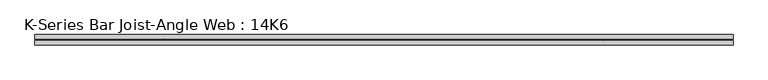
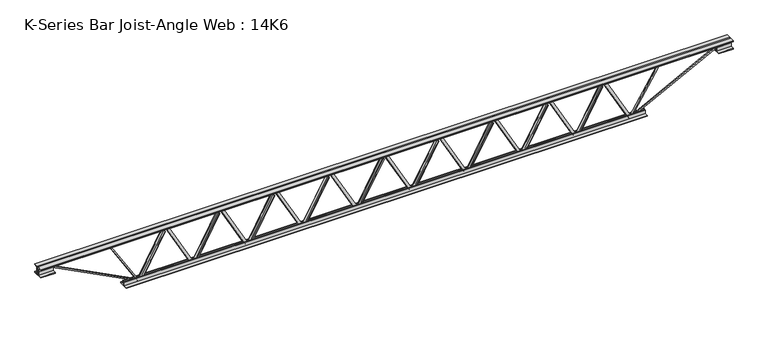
"""IFC4 building model written with IfcOpenShell, lengths in millimetres: beam geometry, K-Series Bar Joist-Angle Web : 14K6."""

from ifc_helpers import new_model, si_unit, frame, origin, place, context, project, spatial, polyline, outline, extrude, faceted_brep, source, transform, mapped, element, save


def k_series_bar_joist_angle_web_14k6_51fbc8db(model_context):
    return source(origin(), model_context, "Body", "SolidModel", [
        extrude(outline(polyline([(-4.7625, 4.7625), (-4.7625, 0.0), (-17.4625, 0.0), (-17.4625, 4.7625), (-4.7625, 4.7625)])), frame((1331.9042706, 0.0, -139.7), z_axis=(-0.4827805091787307, 0.0, 0.8757413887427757), x_axis=(0.0, -1.0, 0.0)), (0.0, 0.0, 1.0), 319.0439593),
        extrude(outline(polyline([(-174.625, 1363.1333333), (-155.575, 1363.1333333), (-155.575, 1362.4088704), (174.625, 1180.3755371), (174.625, 1162.05), (155.575, 1162.05), (155.575, 1169.1244629), (-174.625, 1351.1577963), (-174.625, 1363.1333333)])), frame((0.0, 0.0, 0.0), z_axis=(0.0, 1.0, 0.0), x_axis=(0.0, 0.0, 1.0)), (0.0, 0.0, 1.0), 4.7625),
        faceted_brep([(973.6666667, 0.0, -155.575), (973.6666667, 0.0, -174.625), (973.6666667, -4.7625, -174.625), (973.6666667, -4.7625, -155.575), (974.3911296, 0.0, -155.575), (1156.4244629, 0.0, 174.625), (1174.75, 0.0, 174.625), (1174.75, 0.0, 155.575), (1167.6755371, 0.0, 155.575), (985.6422037, 0.0, -174.625), (985.6422037, -4.7625, -174.625), (1004.8957294, -4.7625, -139.7), (1000.725011, -4.7625, -137.4007578), (1154.7532161, -4.7625, 141.9992422), (1158.9239345, -4.7625, 139.7), (1167.6755371, -4.7625, 155.575), (1174.75, -4.7625, 155.575), (1174.75, -4.7625, 174.625), (1156.4244629, -4.7625, 174.625), (974.3911296, -4.7625, -155.575), (1158.9239345, -17.4625, 139.7), (1004.8957294, -17.4625, -139.7), (1000.725011, -17.4625, -137.4007578), (1154.7532161, -17.4625, 141.9992422)], [[[0, 1, 2, 3]], [[1, 0, 4, 5, 6, 7, 8, 9]], [[2, 1, 9, 10]], [[3, 2, 10, 11, 12, 13, 14, 15, 16, 17, 18, 19]], [[0, 3, 19, 4]], [[9, 8, 15, 14, 20, 21, 11, 10]], [[5, 4, 19, 18]], [[7, 6, 17, 16]], [[8, 7, 16, 15]], [[6, 5, 18, 17]], [[21, 22, 12, 11]], [[20, 14, 13, 23]], [[22, 21, 20, 23]], [[12, 22, 23, 13]]]),
        extrude(outline(polyline([(-4.7625, 4.7625), (-4.7625, 0.0), (-17.4625, 0.0), (-17.4625, 4.7625), (-4.7625, 4.7625)])), frame((942.437604, 0.0, -139.7), z_axis=(-0.4827805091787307, 0.0, 0.8757413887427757), x_axis=(0.0, -1.0, 0.0)), (0.0, 0.0, 1.0), 319.0439593),
        extrude(outline(polyline([(-174.625, 973.6666667), (-155.575, 973.6666667), (-155.575, 972.9422037), (174.625, 790.9088704), (174.625, 772.5833333), (155.575, 772.5833333), (155.575, 779.6577963), (-174.625, 961.6911296), (-174.625, 973.6666667)])), frame((0.0, 0.0, 0.0), z_axis=(0.0, 1.0, 0.0), x_axis=(0.0, 0.0, 1.0)), (0.0, 0.0, 1.0), 4.7625),
        faceted_brep([(584.2, 0.0, -155.575), (584.2, 0.0, -174.625), (584.2, -4.7625, -174.625), (584.2, -4.7625, -155.575), (584.9244629, 0.0, -155.575), (766.9577963, 0.0, 174.625), (785.2833333, 0.0, 174.625), (785.2833333, 0.0, 155.575), (778.2088704, 0.0, 155.575), (596.1755371, 0.0, -174.625), (596.1755371, -4.7625, -174.625), (615.4290627, -4.7625, -139.7), (611.2583444, -4.7625, -137.4007578), (765.2865495, -4.7625, 141.9992422), (769.4572678, -4.7625, 139.7), (778.2088704, -4.7625, 155.575), (785.2833333, -4.7625, 155.575), (785.2833333, -4.7625, 174.625), (766.9577963, -4.7625, 174.625), (584.9244629, -4.7625, -155.575), (769.4572678, -17.4625, 139.7), (615.4290627, -17.4625, -139.7), (611.2583444, -17.4625, -137.4007578), (765.2865495, -17.4625, 141.9992422)], [[[0, 1, 2, 3]], [[1, 0, 4, 5, 6, 7, 8, 9]], [[2, 1, 9, 10]], [[3, 2, 10, 11, 12, 13, 14, 15, 16, 17, 18, 19]], [[0, 3, 19, 4]], [[9, 8, 15, 14, 20, 21, 11, 10]], [[5, 4, 19, 18]], [[7, 6, 17, 16]], [[8, 7, 16, 15]], [[6, 5, 18, 17]], [[21, 22, 12, 11]], [[20, 14, 13, 23]], [[22, 21, 20, 23]], [[12, 22, 23, 13]]]),
        extrude(outline(polyline([(-4.7625, 4.7625), (-4.7625, 0.0), (-17.4625, 0.0), (-17.4625, 4.7625), (-4.7625, 4.7625)])), frame((552.9709373, 0.0, -139.7), z_axis=(-0.4827805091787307, 0.0, 0.8757413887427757), x_axis=(0.0, -1.0, 0.0)), (0.0, 0.0, 1.0), 319.0439593),
        extrude(outline(polyline([(-174.625, 584.2), (-155.575, 584.2), (-155.575, 583.4755371), (174.625, 401.4422037), (174.625, 383.1166667), (155.575, 383.1166667), (155.575, 390.1911296), (-174.625, 572.2244629), (-174.625, 584.2)])), frame((0.0, 0.0, 0.0), z_axis=(0.0, 1.0, 0.0), x_axis=(0.0, 0.0, 1.0)), (0.0, 0.0, 1.0), 4.7625),
        faceted_brep([(194.7333333, 0.0, -155.575), (194.7333333, 0.0, -174.625), (194.7333333, -4.7625, -174.625), (194.7333333, -4.7625, -155.575), (195.4577963, 0.0, -155.575), (377.4911296, 0.0, 174.625), (395.8166667, 0.0, 174.625), (395.8166667, 0.0, 155.575), (388.7422037, 0.0, 155.575), (206.7088704, 0.0, -174.625), (206.7088704, -4.7625, -174.625), (225.962396, -4.7625, -139.7), (221.7916777, -4.7625, -137.4007578), (375.8198828, -4.7625, 141.9992422), (379.9906012, -4.7625, 139.7), (388.7422037, -4.7625, 155.575), (395.8166667, -4.7625, 155.575), (395.8166667, -4.7625, 174.625), (377.4911296, -4.7625, 174.625), (195.4577963, -4.7625, -155.575), (379.9906012, -17.4625, 139.7), (225.962396, -17.4625, -139.7), (221.7916777, -17.4625, -137.4007578), (375.8198828, -17.4625, 141.9992422)], [[[0, 1, 2, 3]], [[1, 0, 4, 5, 6, 7, 8, 9]], [[2, 1, 9, 10]], [[3, 2, 10, 11, 12, 13, 14, 15, 16, 17, 18, 19]], [[0, 3, 19, 4]], [[9, 8, 15, 14, 20, 21, 11, 10]], [[5, 4, 19, 18]], [[7, 6, 17, 16]], [[8, 7, 16, 15]], [[6, 5, 18, 17]], [[21, 22, 12, 11]], [[20, 14, 13, 23]], [[22, 21, 20, 23]], [[12, 22, 23, 13]]]),
        extrude(outline(polyline([(-4.7625, 4.7625), (-4.7625, 0.0), (-17.4625, 0.0), (-17.4625, 4.7625), (-4.7625, 4.7625)])), frame((163.5042706, 0.0, -139.7), z_axis=(-0.4827805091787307, 0.0, 0.8757413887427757), x_axis=(0.0, -1.0, 0.0)), (0.0, 0.0, 1.0), 319.0439593),
        extrude(outline(polyline([(-174.625, 194.7333333), (-155.575, 194.7333333), (-155.575, 194.0088704), (174.625, 11.9755371), (174.625, -6.35), (155.575, -6.35), (155.575, 0.7244629), (-174.625, 182.7577963), (-174.625, 194.7333333)])), frame((0.0, 0.0, 0.0), z_axis=(0.0, 1.0, 0.0), x_axis=(0.0, 0.0, 1.0)), (0.0, 0.0, 1.0), 4.7625),
        faceted_brep([(-194.7333333, 0.0, -155.575), (-194.7333333, 0.0, -174.625), (-194.7333333, -4.7625, -174.625), (-194.7333333, -4.7625, -155.575), (-194.0088704, 0.0, -155.575), (-11.9755371, 0.0, 174.625), (6.35, 0.0, 174.625), (6.35, 0.0, 155.575), (-0.7244629, 0.0, 155.575), (-182.7577963, 0.0, -174.625), (-182.7577963, -4.7625, -174.625), (-163.5042706, -4.7625, -139.7), (-167.674989, -4.7625, -137.4007578), (-13.6467839, -4.7625, 141.9992422), (-9.4760655, -4.7625, 139.7), (-0.7244629, -4.7625, 155.575), (6.35, -4.7625, 155.575), (6.35, -4.7625, 174.625), (-11.9755371, -4.7625, 174.625), (-194.0088704, -4.7625, -155.575), (-9.4760655, -17.4625, 139.7), (-163.5042706, -17.4625, -139.7), (-167.674989, -17.4625, -137.4007578), (-13.6467839, -17.4625, 141.9992422)], [[[0, 1, 2, 3]], [[1, 0, 4, 5, 6, 7, 8, 9]], [[2, 1, 9, 10]], [[3, 2, 10, 11, 12, 13, 14, 15, 16, 17, 18, 19]], [[0, 3, 19, 4]], [[9, 8, 15, 14, 20, 21, 11, 10]], [[5, 4, 19, 18]], [[7, 6, 17, 16]], [[8, 7, 16, 15]], [[6, 5, 18, 17]], [[21, 22, 12, 11]], [[20, 14, 13, 23]], [[22, 21, 20, 23]], [[12, 22, 23, 13]]]),
        extrude(outline(polyline([(-4.7625, 4.7625), (-4.7625, 0.0), (-17.4625, 0.0), (-17.4625, 4.7625), (-4.7625, 4.7625)])), frame((-225.962396, 0.0, -139.7), z_axis=(-0.4827805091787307, 0.0, 0.8757413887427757), x_axis=(0.0, -1.0, 0.0)), (0.0, 0.0, 1.0), 319.0439593),
        extrude(outline(polyline([(-174.625, -194.7333333), (-155.575, -194.7333333), (-155.575, -195.4577963), (174.625, -377.4911296), (174.625, -395.8166667), (155.575, -395.8166667), (155.575, -388.7422037), (-174.625, -206.7088704), (-174.625, -194.7333333)])), frame((0.0, 0.0, 0.0), z_axis=(0.0, 1.0, 0.0), x_axis=(0.0, 0.0, 1.0)), (0.0, 0.0, 1.0), 4.7625),
        faceted_brep([(-584.2, 0.0, -155.575), (-584.2, 0.0, -174.625), (-584.2, -4.7625, -174.625), (-584.2, -4.7625, -155.575), (-583.4755371, 0.0, -155.575), (-401.4422037, 0.0, 174.625), (-383.1166667, 0.0, 174.625), (-383.1166667, 0.0, 155.575), (-390.1911296, 0.0, 155.575), (-572.2244629, 0.0, -174.625), (-572.2244629, -4.7625, -174.625), (-552.9709373, -4.7625, -139.7), (-557.1416556, -4.7625, -137.4007578), (-403.1134505, -4.7625, 141.9992422), (-398.9427322, -4.7625, 139.7), (-390.1911296, -4.7625, 155.575), (-383.1166667, -4.7625, 155.575), (-383.1166667, -4.7625, 174.625), (-401.4422037, -4.7625, 174.625), (-583.4755371, -4.7625, -155.575), (-398.9427322, -17.4625, 139.7), (-552.9709373, -17.4625, -139.7), (-557.1416556, -17.4625, -137.4007578), (-403.1134505, -17.4625, 141.9992422)], [[[0, 1, 2, 3]], [[1, 0, 4, 5, 6, 7, 8, 9]], [[2, 1, 9, 10]], [[3, 2, 10, 11, 12, 13, 14, 15, 16, 17, 18, 19]], [[0, 3, 19, 4]], [[9, 8, 15, 14, 20, 21, 11, 10]], [[5, 4, 19, 18]], [[7, 6, 17, 16]], [[8, 7, 16, 15]], [[6, 5, 18, 17]], [[21, 22, 12, 11]], [[20, 14, 13, 23]], [[22, 21, 20, 23]], [[12, 22, 23, 13]]]),
        extrude(outline(polyline([(-4.7625, 4.7625), (-4.7625, 0.0), (-17.4625, 0.0), (-17.4625, 4.7625), (-4.7625, 4.7625)])), frame((-615.4290627, 0.0, -139.7), z_axis=(-0.4827805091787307, 0.0, 0.8757413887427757), x_axis=(0.0, -1.0, 0.0)), (0.0, 0.0, 1.0), 319.0439593),
        extrude(outline(polyline([(-174.625, -584.2), (-155.575, -584.2), (-155.575, -584.9244629), (174.625, -766.9577963), (174.625, -785.2833333), (155.575, -785.2833333), (155.575, -778.2088704), (-174.625, -596.1755371), (-174.625, -584.2)])), frame((0.0, 0.0, 0.0), z_axis=(0.0, 1.0, 0.0), x_axis=(0.0, 0.0, 1.0)), (0.0, 0.0, 1.0), 4.7625),
        faceted_brep([(-973.6666667, 0.0, -155.575), (-973.6666667, 0.0, -174.625), (-973.6666667, -4.7625, -174.625), (-973.6666667, -4.7625, -155.575), (-972.9422037, 0.0, -155.575), (-790.9088704, 0.0, 174.625), (-772.5833333, 0.0, 174.625), (-772.5833333, 0.0, 155.575), (-779.6577963, 0.0, 155.575), (-961.6911296, 0.0, -174.625), (-961.6911296, -4.7625, -174.625), (-942.437604, -4.7625, -139.7), (-946.6083223, -4.7625, -137.4007578), (-792.5801172, -4.7625, 141.9992422), (-788.4093988, -4.7625, 139.7), (-779.6577963, -4.7625, 155.575), (-772.5833333, -4.7625, 155.575), (-772.5833333, -4.7625, 174.625), (-790.9088704, -4.7625, 174.625), (-972.9422037, -4.7625, -155.575), (-788.4093988, -17.4625, 139.7), (-942.437604, -17.4625, -139.7), (-946.6083223, -17.4625, -137.4007578), (-792.5801172, -17.4625, 141.9992422)], [[[0, 1, 2, 3]], [[1, 0, 4, 5, 6, 7, 8, 9]], [[2, 1, 9, 10]], [[3, 2, 10, 11, 12, 13, 14, 15, 16, 17, 18, 19]], [[0, 3, 19, 4]], [[9, 8, 15, 14, 20, 21, 11, 10]], [[5, 4, 19, 18]], [[7, 6, 17, 16]], [[8, 7, 16, 15]], [[6, 5, 18, 17]], [[21, 22, 12, 11]], [[20, 14, 13, 23]], [[22, 21, 20, 23]], [[12, 22, 23, 13]]]),
        extrude(outline(polyline([(-4.7625, 4.7625), (-4.7625, 0.0), (-17.4625, 0.0), (-17.4625, 4.7625), (-4.7625, 4.7625)])), frame((-1004.8957294, 0.0, -139.7), z_axis=(-0.4827805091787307, 0.0, 0.8757413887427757), x_axis=(0.0, -1.0, 0.0)), (0.0, 0.0, 1.0), 319.0439593),
        extrude(outline(polyline([(-174.625, -973.6666667), (-155.575, -973.6666667), (-155.575, -974.3911296), (174.625, -1156.4244629), (174.625, -1174.75), (155.575, -1174.75), (155.575, -1167.6755371), (-174.625, -985.6422037), (-174.625, -973.6666667)])), frame((0.0, 0.0, 0.0), z_axis=(0.0, 1.0, 0.0), x_axis=(0.0, 0.0, 1.0)), (0.0, 0.0, 1.0), 4.7625),
        faceted_brep([(-1363.1333333, 0.0, -155.575), (-1363.1333333, 0.0, -174.625), (-1363.1333333, -4.7625, -174.625), (-1363.1333333, -4.7625, -155.575), (-1362.4088704, 0.0, -155.575), (-1180.3755371, 0.0, 174.625), (-1162.05, 0.0, 174.625), (-1162.05, 0.0, 155.575), (-1169.1244629, 0.0, 155.575), (-1351.1577963, 0.0, -174.625), (-1351.1577963, -4.7625, -174.625), (-1331.9042706, -4.7625, -139.7), (-1336.074989, -4.7625, -137.4007578), (-1182.0467839, -4.7625, 141.9992422), (-1177.8760655, -4.7625, 139.7), (-1169.1244629, -4.7625, 155.575), (-1162.05, -4.7625, 155.575), (-1162.05, -4.7625, 174.625), (-1180.3755371, -4.7625, 174.625), (-1362.4088704, -4.7625, -155.575), (-1177.8760655, -17.4625, 139.7), (-1331.9042706, -17.4625, -139.7), (-1336.074989, -17.4625, -137.4007578), (-1182.0467839, -17.4625, 141.9992422)], [[[0, 1, 2, 3]], [[1, 0, 4, 5, 6, 7, 8, 9]], [[2, 1, 9, 10]], [[3, 2, 10, 11, 12, 13, 14, 15, 16, 17, 18, 19]], [[0, 3, 19, 4]], [[9, 8, 15, 14, 20, 21, 11, 10]], [[5, 4, 19, 18]], [[7, 6, 17, 16]], [[8, 7, 16, 15]], [[6, 5, 18, 17]], [[21, 22, 12, 11]], [[20, 14, 13, 23]], [[22, 21, 20, 23]], [[12, 22, 23, 13]]]),
        extrude(outline(polyline([(-4.7625, 4.7625), (-4.7625, 0.0), (-17.4625, 0.0), (-17.4625, 4.7625), (-4.7625, 4.7625)])), frame((1721.3709373, 0.0, -139.7), z_axis=(-0.4827805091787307, 0.0, 0.8757413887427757), x_axis=(0.0, -1.0, 0.0)), (0.0, 0.0, 1.0), 319.0439593),
        extrude(outline(polyline([(-174.625, 1752.6), (-155.575, 1752.6), (-155.575, 1751.8755371), (174.625, 1569.8422037), (174.625, 1551.5166667), (155.575, 1551.5166667), (155.575, 1558.5911296), (-174.625, 1740.6244629), (-174.625, 1752.6)])), frame((0.0, 0.0, 0.0), z_axis=(0.0, 1.0, 0.0), x_axis=(0.0, 0.0, 1.0)), (0.0, 0.0, 1.0), 4.7625),
        faceted_brep([(1363.1333333, 0.0, -155.575), (1363.1333333, 0.0, -174.625), (1363.1333333, -4.7625, -174.625), (1363.1333333, -4.7625, -155.575), (1363.8577963, 0.0, -155.575), (1545.8911296, 0.0, 174.625), (1564.2166667, 0.0, 174.625), (1564.2166667, 0.0, 155.575), (1557.1422037, 0.0, 155.575), (1375.1088704, 0.0, -174.625), (1375.1088704, -4.7625, -174.625), (1394.362396, -4.7625, -139.7), (1390.1916777, -4.7625, -137.4007578), (1544.2198828, -4.7625, 141.9992422), (1548.3906012, -4.7625, 139.7), (1557.1422037, -4.7625, 155.575), (1564.2166667, -4.7625, 155.575), (1564.2166667, -4.7625, 174.625), (1545.8911296, -4.7625, 174.625), (1363.8577963, -4.7625, -155.575), (1548.3906012, -17.4625, 139.7), (1394.362396, -17.4625, -139.7), (1390.1916777, -17.4625, -137.4007578), (1544.2198828, -17.4625, 141.9992422)], [[[0, 1, 2, 3]], [[1, 0, 4, 5, 6, 7, 8, 9]], [[2, 1, 9, 10]], [[3, 2, 10, 11, 12, 13, 14, 15, 16, 17, 18, 19]], [[0, 3, 19, 4]], [[9, 8, 15, 14, 20, 21, 11, 10]], [[5, 4, 19, 18]], [[7, 6, 17, 16]], [[8, 7, 16, 15]], [[6, 5, 18, 17]], [[21, 22, 12, 11]], [[20, 14, 13, 23]], [[22, 21, 20, 23]], [[12, 22, 23, 13]]]),
        extrude(outline(polyline([(-4.7625, 4.7625), (-4.7625, 0.0), (-17.4625, 0.0), (-17.4625, 4.7625), (-4.7625, 4.7625)])), frame((-1394.362396, 0.0, -139.7), z_axis=(-0.4827805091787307, 0.0, 0.8757413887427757), x_axis=(0.0, -1.0, 0.0)), (0.0, 0.0, 1.0), 319.0439593),
        extrude(outline(polyline([(-174.625, -1363.1333333), (-155.575, -1363.1333333), (-155.575, -1363.8577963), (174.625, -1545.8911296), (174.625, -1564.2166667), (155.575, -1564.2166667), (155.575, -1557.1422037), (-174.625, -1375.1088704), (-174.625, -1363.1333333)])), frame((0.0, 0.0, 0.0), z_axis=(0.0, 1.0, 0.0), x_axis=(0.0, 0.0, 1.0)), (0.0, 0.0, 1.0), 4.7625),
        faceted_brep([(-1752.6, 0.0, -155.575), (-1752.6, 0.0, -174.625), (-1752.6, -4.7625, -174.625), (-1752.6, -4.7625, -155.575), (-1751.8755371, 0.0, -155.575), (-1569.8422037, 0.0, 174.625), (-1551.5166667, 0.0, 174.625), (-1551.5166667, 0.0, 155.575), (-1558.5911296, 0.0, 155.575), (-1740.6244629, 0.0, -174.625), (-1740.6244629, -4.7625, -174.625), (-1721.3709373, -4.7625, -139.7), (-1725.5416556, -4.7625, -137.4007578), (-1571.5134505, -4.7625, 141.9992422), (-1567.3427322, -4.7625, 139.7), (-1558.5911296, -4.7625, 155.575), (-1551.5166667, -4.7625, 155.575), (-1551.5166667, -4.7625, 174.625), (-1569.8422037, -4.7625, 174.625), (-1751.8755371, -4.7625, -155.575), (-1567.3427322, -17.4625, 139.7), (-1721.3709373, -17.4625, -139.7), (-1725.5416556, -17.4625, -137.4007578), (-1571.5134505, -17.4625, 141.9992422)], [[[0, 1, 2, 3]], [[1, 0, 4, 5, 6, 7, 8, 9]], [[2, 1, 9, 10]], [[3, 2, 10, 11, 12, 13, 14, 15, 16, 17, 18, 19]], [[0, 3, 19, 4]], [[9, 8, 15, 14, 20, 21, 11, 10]], [[5, 4, 19, 18]], [[7, 6, 17, 16]], [[8, 7, 16, 15]], [[6, 5, 18, 17]], [[21, 22, 12, 11]], [[20, 14, 13, 23]], [[22, 21, 20, 23]], [[12, 22, 23, 13]]]),
        extrude(outline(polyline([(4.7625, 177.8), (36.5125, 177.8), (36.5125, 171.45), (11.1125, 171.45), (11.1125, 146.05), (4.7625, 146.05), (4.7625, 177.8)])), frame((-2463.8, 0.0, 0.0), z_axis=(1.0, 0.0, 0.0), x_axis=(0.0, 1.0, 0.0)), (0.0, 0.0, 1.0), 4927.6),
        extrude(outline(polyline([(-4.7625, 177.8), (-4.7625, 146.05), (-11.1125, 146.05), (-11.1125, 171.45), (-36.5125, 171.45), (-36.5125, 177.8), (-4.7625, 177.8)])), frame((-2463.8, 0.0, 0.0), z_axis=(1.0, 0.0, 0.0), x_axis=(0.0, 1.0, 0.0)), (0.0, 0.0, 1.0), 4927.6),
        extrude(outline(polyline([(-4.7625, 114.3), (-36.5125, 114.3), (-36.5125, 120.65), (-11.1125, 120.65), (-11.1125, 146.05), (-4.7625, 146.05), (-4.7625, 114.3)])), frame((-2463.8, 0.0, 0.0), z_axis=(1.0, 0.0, 0.0), x_axis=(0.0, 1.0, 0.0)), (0.0, 0.0, 1.0), 101.6),
        extrude(outline(polyline([(36.5125, 114.3), (4.7625, 114.3), (4.7625, 146.05), (11.1125, 146.05), (11.1125, 120.65), (36.5125, 120.65), (36.5125, 114.3)])), frame((-2463.8, 0.0, 0.0), z_axis=(1.0, 0.0, 0.0), x_axis=(0.0, 1.0, 0.0)), (0.0, 0.0, 1.0), 101.6),
        extrude(outline(polyline([(4.7625, 114.3), (4.7625, 146.05), (11.1125, 146.05), (11.1125, 120.65), (36.5125, 120.65), (36.5125, 114.3), (4.7625, 114.3)])), frame((2362.2, 0.0, 0.0), z_axis=(1.0, 0.0, 0.0), x_axis=(0.0, 1.0, 0.0)), (0.0, 0.0, 1.0), 101.6),
        extrude(outline(polyline([(-4.7625, 114.3), (-36.5125, 114.3), (-36.5125, 120.65), (-11.1125, 120.65), (-11.1125, 146.05), (-4.7625, 146.05), (-4.7625, 114.3)])), frame((2362.2, 0.0, 0.0), z_axis=(1.0, 0.0, 0.0), x_axis=(0.0, 1.0, 0.0)), (0.0, 0.0, 1.0), 101.6),
        extrude(outline(polyline([(4.7625, -177.8), (4.7625, -146.05), (11.1125, -146.05), (11.1125, -171.45), (36.5125, -171.45), (36.5125, -177.8), (4.7625, -177.8)])), frame((-1854.2, 0.0, 0.0), z_axis=(1.0, 0.0, 0.0), x_axis=(0.0, 1.0, 0.0)), (0.0, 0.0, 1.0), 3708.4),
        extrude(outline(polyline([(-4.7625, -177.8), (-36.5125, -177.8), (-36.5125, -171.45), (-11.1125, -171.45), (-11.1125, -146.05), (-4.7625, -146.05), (-4.7625, -177.8)])), frame((-1854.2, 0.0, 0.0), z_axis=(1.0, 0.0, 0.0), x_axis=(0.0, 1.0, 0.0)), (0.0, 0.0, 1.0), 3708.4),
        extrude(outline(polyline([(4.7625, 4.7625), (4.7625, -4.7625), (-4.7625, -4.7625), (-4.7625, 4.7625), (4.7625, 4.7625)])), frame((1752.6, 0.0, -171.45), z_axis=(0.5228285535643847, 0.0, 0.8524378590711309), x_axis=(0.0, -1.0, 0.0)), (0.0, 0.0, 1.0), 372.4611673),
        extrude(outline(polyline([(4.7625, 4.7625), (4.7625, -4.7625), (-4.7625, -4.7625), (-4.7625, 4.7625), (4.7625, 4.7625)])), frame((-1752.6, 0.0, -171.45), z_axis=(-0.52282855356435, 0.0, 0.8524378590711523), x_axis=(0.0, -1.0, 0.0)), (0.0, 0.0, 1.0), 372.4611673),
        extrude(outline(polyline([(0.0, -9.525), (0.0, 0.0), (687.3270037, 0.0), (687.3270037, -9.525), (0.0, -9.525)])), frame((2364.3999627, -4.7625, 141.8260717), z_axis=(-0.4619344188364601, 0.0, 0.8869140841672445), x_axis=(-0.8869140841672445, 0.0, -0.4619344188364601)), (0.0, 0.0, 1.0), 9.525),
        extrude(outline(polyline([(0.0, -9.525), (0.0, 0.0), (687.3270037, 0.0), (687.3270037, -9.525), (0.0, -9.525)])), frame((-2364.3999627, 4.7625, 141.8260717), z_axis=(0.4619344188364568, 0.0, 0.8869140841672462), x_axis=(0.8869140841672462, 0.0, -0.4619344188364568)), (0.0, 0.0, 1.0), 9.525),
    ])


if __name__ == "__main__":
    model = new_model("IFC4")
    model_context = context("Model", 3, world=origin())
    ifc_project = project(units=[si_unit("LENGTHUNIT", "METRE", prefix="MILLI")], contexts=[model_context])
    site = spatial("IfcSite", under=ifc_project)
    building = spatial("IfcBuilding", under=site)
    placement = place(None, origin())
    k_series_bar_joist_angle_web_14k6_shape = k_series_bar_joist_angle_web_14k6_51fbc8db(model_context)
    element("IfcBeam", 1, ObjectType="K-Series Bar Joist-Angle Web : 14K6", at=placement, inside=building, context=model_context, shape_type="MappedRepresentation", body=[
        mapped(k_series_bar_joist_angle_web_14k6_shape, transform((0.0, 0.0, 0.0), x_axis=(1.0, 0.0, 0.0), y_axis=(0.0, 1.0, 0.0), z_axis=(0.0, 0.0, 1.0))),
    ])
    save(model, "model.ifc")
